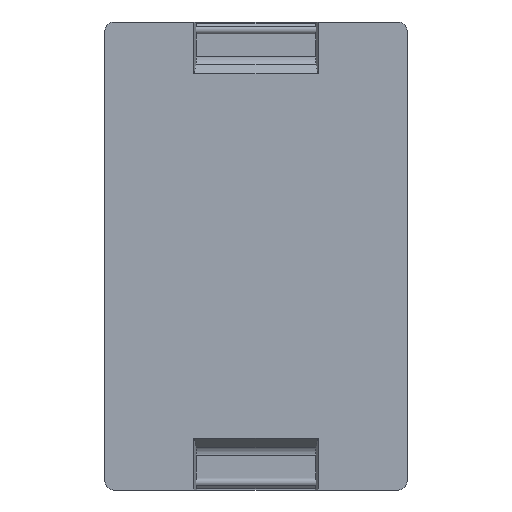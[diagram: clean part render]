
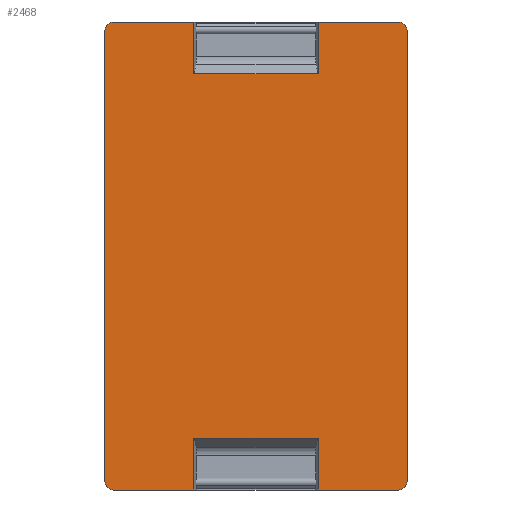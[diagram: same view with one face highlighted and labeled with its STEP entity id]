
A CAD part, front view. The second image highlights one B-rep face of the part: STEP entity #2468.
In plain terms, the highlighted planar face has unit normal (0, -1, 0).
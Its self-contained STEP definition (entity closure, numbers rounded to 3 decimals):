
#1=DIRECTION('',(1.,0.,0.));
#2=VECTOR('',#1,11.458);
#3=CARTESIAN_POINT('',(-5.729,0.,-16.843));
#4=LINE('',#3,#2);
#5=DIRECTION('',(0.,0.,-1.));
#6=VECTOR('',#5,4.757);
#7=CARTESIAN_POINT('',(-5.729,0.,-16.843));
#8=LINE('',#7,#6);
#9=DIRECTION('',(-1.,0.,0.));
#10=VECTOR('',#9,7.421);
#11=CARTESIAN_POINT('',(-5.729,0.,-21.6));
#12=LINE('',#11,#10);
#13=CARTESIAN_POINT('',(-13.15,0.,-20.8));
#14=DIRECTION('',(0.,-1.,0.));
#15=DIRECTION('',(-1.,0.,0.));
#16=AXIS2_PLACEMENT_3D('',#13,#14,#15);
#18=DIRECTION('',(0.,0.,1.));
#19=VECTOR('',#18,41.6);
#20=CARTESIAN_POINT('',(-13.95,0.,-20.8));
#21=LINE('',#20,#19);
#22=CARTESIAN_POINT('',(-13.15,0.,20.8));
#23=DIRECTION('',(0.,-1.,0.));
#24=DIRECTION('',(0.,0.,1.));
#25=AXIS2_PLACEMENT_3D('',#22,#23,#24);
#27=DIRECTION('',(1.,0.,0.));
#28=VECTOR('',#27,7.421);
#29=CARTESIAN_POINT('',(-13.15,0.,21.6));
#30=LINE('',#29,#28);
#31=DIRECTION('',(0.,0.,-1.));
#32=VECTOR('',#31,4.757);
#33=CARTESIAN_POINT('',(-5.729,0.,21.6));
#34=LINE('',#33,#32);
#35=DIRECTION('',(1.,0.,0.));
#36=VECTOR('',#35,11.458);
#37=CARTESIAN_POINT('',(-5.729,0.,16.843));
#38=LINE('',#37,#36);
#39=DIRECTION('',(0.,0.,-1.));
#40=VECTOR('',#39,4.757);
#41=CARTESIAN_POINT('',(5.729,0.,21.6));
#42=LINE('',#41,#40);
#43=DIRECTION('',(1.,0.,0.));
#44=VECTOR('',#43,7.421);
#45=CARTESIAN_POINT('',(5.729,0.,21.6));
#46=LINE('',#45,#44);
#47=CARTESIAN_POINT('',(13.15,0.,20.8));
#48=DIRECTION('',(0.,-1.,0.));
#49=DIRECTION('',(1.,0.,0.));
#50=AXIS2_PLACEMENT_3D('',#47,#48,#49);
#52=DIRECTION('',(0.,0.,-1.));
#53=VECTOR('',#52,41.6);
#54=CARTESIAN_POINT('',(13.95,0.,20.8));
#55=LINE('',#54,#53);
#56=CARTESIAN_POINT('',(13.15,0.,-20.8));
#57=DIRECTION('',(0.,-1.,0.));
#58=DIRECTION('',(0.,0.,-1.));
#59=AXIS2_PLACEMENT_3D('',#56,#57,#58);
#61=DIRECTION('',(-1.,0.,0.));
#62=VECTOR('',#61,7.421);
#63=CARTESIAN_POINT('',(13.15,0.,-21.6));
#64=LINE('',#63,#62);
#65=DIRECTION('',(0.,0.,-1.));
#66=VECTOR('',#65,4.757);
#67=CARTESIAN_POINT('',(5.729,0.,-16.843));
#68=LINE('',#67,#66);
#2226=CARTESIAN_POINT('',(13.15,0.,21.6));
#2228=VERTEX_POINT('',#2226);
#2231=CARTESIAN_POINT('',(13.95,0.,20.8));
#2232=VERTEX_POINT('',#2231);
#2233=CARTESIAN_POINT('',(-13.15,0.,21.6));
#2235=VERTEX_POINT('',#2233);
#2237=CARTESIAN_POINT('',(-13.95,0.,20.8));
#2238=VERTEX_POINT('',#2237);
#2242=CARTESIAN_POINT('',(13.95,0.,-20.8));
#2244=VERTEX_POINT('',#2242);
#2247=CARTESIAN_POINT('',(13.15,0.,-21.6));
#2248=VERTEX_POINT('',#2247);
#2249=CARTESIAN_POINT('',(-13.95,0.,-20.8));
#2251=VERTEX_POINT('',#2249);
#2253=CARTESIAN_POINT('',(-13.15,0.,-21.6));
#2254=VERTEX_POINT('',#2253);
#2391=CARTESIAN_POINT('',(-5.729,0.,16.843));
#2392=CARTESIAN_POINT('',(5.729,0.,16.843));
#2393=VERTEX_POINT('',#2391);
#2394=VERTEX_POINT('',#2392);
#2399=CARTESIAN_POINT('',(-5.729,0.,21.6));
#2400=VERTEX_POINT('',#2399);
#2401=CARTESIAN_POINT('',(5.729,0.,21.6));
#2402=VERTEX_POINT('',#2401);
#2417=CARTESIAN_POINT('',(-5.729,0.,-16.843));
#2418=CARTESIAN_POINT('',(5.729,0.,-16.843));
#2419=VERTEX_POINT('',#2417);
#2420=VERTEX_POINT('',#2418);
#2425=CARTESIAN_POINT('',(5.729,0.,-21.6));
#2426=VERTEX_POINT('',#2425);
#2427=CARTESIAN_POINT('',(-5.729,0.,-21.6));
#2428=VERTEX_POINT('',#2427);
#2429=CARTESIAN_POINT('',(0.,0.,0.));
#2430=DIRECTION('',(0.,1.,0.));
#2431=DIRECTION('',(0.,0.,-1.));
#2432=AXIS2_PLACEMENT_3D('',#2429,#2430,#2431);
#2433=PLANE('',#2432);
#2435=ORIENTED_EDGE('',*,*,#2434,.F.);
#2437=ORIENTED_EDGE('',*,*,#2436,.T.);
#2439=ORIENTED_EDGE('',*,*,#2438,.T.);
#2441=ORIENTED_EDGE('',*,*,#2440,.F.);
#2443=ORIENTED_EDGE('',*,*,#2442,.T.);
#2445=ORIENTED_EDGE('',*,*,#2444,.F.);
#2447=ORIENTED_EDGE('',*,*,#2446,.T.);
#2449=ORIENTED_EDGE('',*,*,#2448,.T.);
#2451=ORIENTED_EDGE('',*,*,#2450,.T.);
#2453=ORIENTED_EDGE('',*,*,#2452,.F.);
#2455=ORIENTED_EDGE('',*,*,#2454,.T.);
#2457=ORIENTED_EDGE('',*,*,#2456,.F.);
#2459=ORIENTED_EDGE('',*,*,#2458,.T.);
#2461=ORIENTED_EDGE('',*,*,#2460,.F.);
#2463=ORIENTED_EDGE('',*,*,#2462,.T.);
#2465=ORIENTED_EDGE('',*,*,#2464,.F.);
#2466=EDGE_LOOP('',(#2435,#2437,#2439,#2441,#2443,#2445,#2447,#2449,#2451,#2453,
#2455,#2457,#2459,#2461,#2463,#2465));
#2467=FACE_OUTER_BOUND('',#2466,.F.);
#2468=ADVANCED_FACE('',(#2467),#2433,.F.);
#17=CIRCLE('',#16,0.8);
#26=CIRCLE('',#25,0.8);
#51=CIRCLE('',#50,0.8);
#60=CIRCLE('',#59,0.8);
#2434=EDGE_CURVE('',#2419,#2420,#4,.T.);
#2436=EDGE_CURVE('',#2419,#2428,#8,.T.);
#2438=EDGE_CURVE('',#2428,#2254,#12,.T.);
#2440=EDGE_CURVE('',#2251,#2254,#17,.T.);
#2442=EDGE_CURVE('',#2251,#2238,#21,.T.);
#2444=EDGE_CURVE('',#2235,#2238,#26,.T.);
#2446=EDGE_CURVE('',#2235,#2400,#30,.T.);
#2448=EDGE_CURVE('',#2400,#2393,#34,.T.);
#2450=EDGE_CURVE('',#2393,#2394,#38,.T.);
#2452=EDGE_CURVE('',#2402,#2394,#42,.T.);
#2454=EDGE_CURVE('',#2402,#2228,#46,.T.);
#2456=EDGE_CURVE('',#2232,#2228,#51,.T.);
#2458=EDGE_CURVE('',#2232,#2244,#55,.T.);
#2460=EDGE_CURVE('',#2248,#2244,#60,.T.);
#2462=EDGE_CURVE('',#2248,#2426,#64,.T.);
#2464=EDGE_CURVE('',#2420,#2426,#68,.T.);
